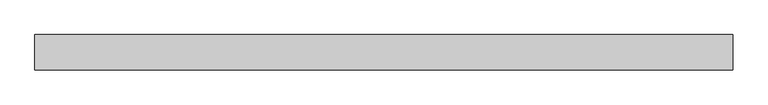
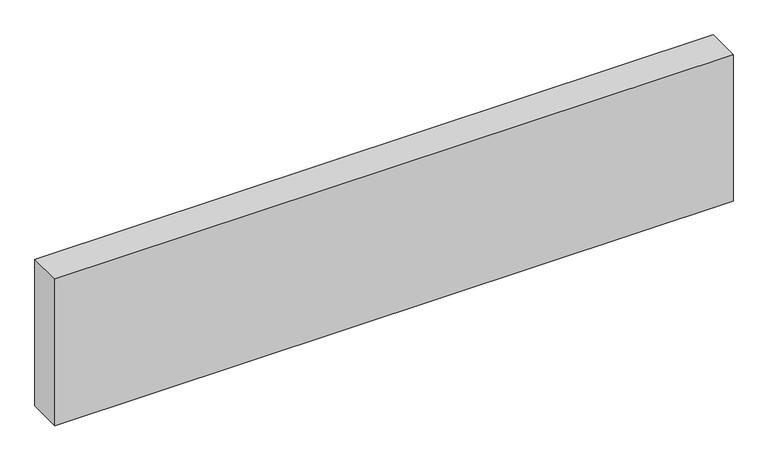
"""IFC4 building model written with IfcOpenShell, lengths in millimetres: plate geometry, Системная панель : Алюкобонд серый."""

import ifcopenshell
import ifcopenshell.guid

model = None  # the IFC model being written
_history = None  # IfcOwnerHistory: only IFC2X3 demands one
_inside = {}  # id of a spatial element -> (the spatial element, [elements in it])
_under = {}  # id of a project, library or spatial element -> (it, [spatial elements below it])
_declared = {}  # id of a project -> (the project, [libraries it declares])
_typed = {}  # id of a type object -> (the type object, [elements of that type])
_made_of = {}  # id of a material, layer set ... -> (it, [elements and type objects made of it])


def new_model(schema):
    """Start an empty IFC model of exactly this schema.

    Asked for "IFC4X3", IfcOpenShell would pick the latest addendum, in which some entities
    have other attributes; the version numbers below select the first issue.
    IFC2X3 requires an IfcOwnerHistory on every rooted entity: one is made here for all.
    """
    global model, _history
    if schema == "IFC4X3":
        model = ifcopenshell.file(schema_version=(4, 3, 0, 0))
    else:
        model = ifcopenshell.file(schema=schema)
    _inside.clear()
    _under.clear()
    _declared.clear()
    _typed.clear()
    _made_of.clear()
    _history = None
    if model.schema == "IFC2X3":
        org = make("IfcOrganization", Name="unknown")
        user = make(
            "IfcPersonAndOrganization",
            ThePerson=make("IfcPerson", FamilyName="unknown"),
            TheOrganization=org,
        )
        app = make(
            "IfcApplication",
            ApplicationDeveloper=org,
            Version="unknown",
            ApplicationFullName="unknown",
            ApplicationIdentifier="unknown",
        )
        _history = make(
            "IfcOwnerHistory",
            OwningUser=user,
            OwningApplication=app,
            ChangeAction="ADDED",
            CreationDate=0,
        )
    return model


def make(cls, **values):
    """One entity of the class cls with the attributes given. An attribute that is None is left unset."""
    return model.create_entity(
        cls, **{name: value for name, value in values.items() if value is not None}
    )


def rooted(cls, **values):
    """An entity with a GlobalId (a new one), such as an element, a storey or a relation."""
    return make(cls, GlobalId=ifcopenshell.guid.new(), OwnerHistory=_history, **values)


def si_unit(unit_type, name, prefix=None):
    """IfcSIUnit, for example si_unit("LENGTHUNIT", "METRE", prefix="MILLI")."""
    return make("IfcSIUnit", UnitType=unit_type, Prefix=prefix, Name=name)


def assignment(units):
    """IfcUnitAssignment: the units of a project."""
    return None if units is None else make("IfcUnitAssignment", Units=units)


def point(xyz):
    """IfcCartesianPoint."""
    return None if xyz is None else make("IfcCartesianPoint", Coordinates=xyz)


def direction(xyz):
    """IfcDirection."""
    return None if xyz is None else make("IfcDirection", DirectionRatios=xyz)


def frame(location, z_axis=None, x_axis=None):
    """IfcAxis2Placement3D, a coordinate frame: its origin and axes. An axis left out is left unset."""
    return make(
        "IfcAxis2Placement3D",
        Location=point(location),
        Axis=direction(z_axis),
        RefDirection=direction(x_axis),
    )


def origin():
    """The frame at (0, 0, 0) with its axes left unset."""
    return frame((0.0, 0.0, 0.0))


def origin_with_axes():
    """The frame at (0, 0, 0) with the z axis (0, 0, 1) and the x axis (1, 0, 0) written out."""
    return frame((0.0, 0.0, 0.0), z_axis=(0.0, 0.0, 1.0), x_axis=(1.0, 0.0, 0.0))


def place(relative_to, where):
    """IfcLocalPlacement: puts the frame where relative to a parent placement (None: the world)."""
    return make(
        "IfcLocalPlacement", PlacementRelTo=relative_to, RelativePlacement=where
    )


def context(
    kind, dimensions, precision=None, world=None, true_north=None, identifier=None
):
    """IfcGeometricRepresentationContext, for example the 3D "Model" context."""
    return make(
        "IfcGeometricRepresentationContext",
        ContextIdentifier=identifier,
        ContextType=kind,
        CoordinateSpaceDimension=dimensions,
        Precision=precision,
        WorldCoordinateSystem=world,
        TrueNorth=true_north,
    )


def project(units=None, contexts=None):
    """IfcProject with its units and contexts."""
    return rooted(
        "IfcProject",
        Name="project",
        RepresentationContexts=contexts,
        UnitsInContext=assignment(units),
    )


def spatial(cls, under=None, at=None, **own):
    """A site, building, storey or space (cls), placed at a placement, below another one or the project."""
    s = rooted(cls, ObjectPlacement=at, **own)
    if under is not None:
        _under.setdefault(under.id(), (under, []))[1].append(s)
    return s


def polyline(points):
    """IfcPolyline through the points."""
    return make("IfcPolyline", Points=[point(p) for p in points])


def outline(outer, holes=None, kind="AREA"):
    """IfcArbitraryClosedProfileDef: a profile drawn as a closed curve; with holes, ...WithVoids."""
    if holes is None:
        return make("IfcArbitraryClosedProfileDef", ProfileType=kind, OuterCurve=outer)
    return make(
        "IfcArbitraryProfileDefWithVoids",
        ProfileType=kind,
        OuterCurve=outer,
        InnerCurves=holes,
    )


def extrude(swept, where, along, depth):
    """IfcExtrudedAreaSolid: the profile swept, set in the frame where, extruded along a direction by depth."""
    return make(
        "IfcExtrudedAreaSolid",
        SweptArea=swept,
        Position=where,
        ExtrudedDirection=direction(along),
        Depth=depth,
    )


def shape(context_of_items, identifier, shape_type, items):
    """IfcShapeRepresentation: the items that make up one representation, for example the "Body"."""
    return make(
        "IfcShapeRepresentation",
        ContextOfItems=context_of_items,
        RepresentationIdentifier=identifier,
        RepresentationType=shape_type,
        Items=items,
    )


def source(mapping_origin, context_of_items, identifier, shape_type, items):
    """IfcRepresentationMap: a shape defined once, which mapped items show again and again."""
    return make(
        "IfcRepresentationMap",
        MappingOrigin=mapping_origin,
        MappedRepresentation=shape(context_of_items, identifier, shape_type, items),
    )


def transform(
    local_origin,
    x_axis=None,
    y_axis=None,
    z_axis=None,
    scale=None,
    scale2=None,
    scale3=None,
    uniform=True,
):
    """IfcCartesianTransformationOperator3D, or its non-uniform kind. x_axis, y_axis, z_axis: its Axis1, 2, 3."""
    if uniform:
        return make(
            "IfcCartesianTransformationOperator3D",
            Axis1=direction(x_axis),
            Axis2=direction(y_axis),
            LocalOrigin=point(local_origin),
            Scale=scale,
            Axis3=direction(z_axis),
        )
    return make(
        "IfcCartesianTransformationOperator3DnonUniform",
        Axis1=direction(x_axis),
        Axis2=direction(y_axis),
        LocalOrigin=point(local_origin),
        Scale=scale,
        Axis3=direction(z_axis),
        Scale2=scale2,
        Scale3=scale3,
    )


def mapped(mapping_source, mapping_target):
    """IfcMappedItem: shows the shape of a source again, moved by a transform."""
    return make(
        "IfcMappedItem", MappingSource=mapping_source, MappingTarget=mapping_target
    )


def made_of(thing, what):
    """Note that an element or type object is made of a material, layer set ...; save() writes the relation."""
    if what is not None:
        _made_of.setdefault(what.id(), (what, []))[1].append(thing)
    return thing


def element(
    cls,
    number,
    at=None,
    inside=None,
    cuts=None,
    type_object=None,
    material=None,
    context=None,
    identifier="Body",
    shape_type=None,
    held_by="IfcProductDefinitionShape",
    body=None,
    shapes=None,
    **own,
):
    """One element of the class cls, such as IfcWall. Its Tag is "e" and its number.

    at: its placement. inside: the storey or other place that contains it. cuts: it is an
    opening in that element (IfcRelVoidsElement). A single representation is given by context,
    identifier, shape_type and body (its items); several are given by shapes. held_by: the class
    of the entity that holds the representations. save() writes the other relations.
    """
    e = rooted(cls, Tag="e%d" % number, ObjectPlacement=at, **own)
    if body is not None:
        shapes = [shape(context, identifier, shape_type, body)]
    if shapes is not None:
        e.Representation = make(held_by, Representations=shapes)
    if inside is not None:
        _inside.setdefault(inside.id(), (inside, []))[1].append(e)
    if cuts is not None:
        rooted(
            "IfcRelVoidsElement", RelatingBuildingElement=cuts, RelatedOpeningElement=e
        )
    if type_object is not None:
        _typed.setdefault(type_object.id(), (type_object, []))[1].append(e)
    return made_of(e, material)


def aggregate(whole, parts):
    """IfcRelAggregates: a whole, such as a stair, and the parts it consists of."""
    return rooted("IfcRelAggregates", RelatingObject=whole, RelatedObjects=parts)


def save(model, path):
    """Write the relations noted so far, then the file.

    IfcRelAggregates (storeys below a building ...), IfcRelContainedInSpatialStructure (elements
    in a storey), IfcRelDefinesByType, IfcRelAssociatesMaterial and IfcRelDeclares: one each for
    every whole, place, type object, material and project.
    """
    for whole, parts in _under.values():
        aggregate(whole, parts)
    for where, things in _inside.values():
        rooted(
            "IfcRelContainedInSpatialStructure",
            RelatedElements=things,
            RelatingStructure=where,
        )
    for kind, things in _typed.values():
        rooted("IfcRelDefinesByType", RelatedObjects=things, RelatingType=kind)
    for what, things in _made_of.values():
        rooted("IfcRelAssociatesMaterial", RelatedObjects=things, RelatingMaterial=what)
    for by, libraries in _declared.values():
        rooted("IfcRelDeclares", RelatingContext=by, RelatedDefinitions=libraries)
    model.write(path)


def plate_a8c59bf1(model_context):
    return source(origin(), model_context, "Body", "SweptSolid", [
        extrude(outline(polyline([(590.0, -49.5), (-590.0, -49.5), (-590.0, 10.5), (590.0, 10.5), (590.0, -49.5)])), origin_with_axes(), (0.0, 0.0, 1.0), 270.0),
    ])


if __name__ == "__main__":
    model = new_model("IFC4")
    model_context = context("Model", 3, world=origin())
    ifc_project = project(units=[si_unit("LENGTHUNIT", "METRE", prefix="MILLI")], contexts=[model_context])
    site = spatial("IfcSite", under=ifc_project)
    building = spatial("IfcBuilding", under=site)
    placement = place(None, origin())
    plate_shape = plate_a8c59bf1(model_context)
    element("IfcPlate", 1, ObjectType="Системная панель : Алюкобонд серый", at=placement, inside=building, context=model_context, shape_type="MappedRepresentation", body=[
        mapped(plate_shape, transform((0.0, 0.0, 0.0), x_axis=(1.0, 0.0, 0.0), y_axis=(0.0, 1.0, 0.0), z_axis=(0.0, 0.0, 1.0))),
    ])
    save(model, "model.ifc")
